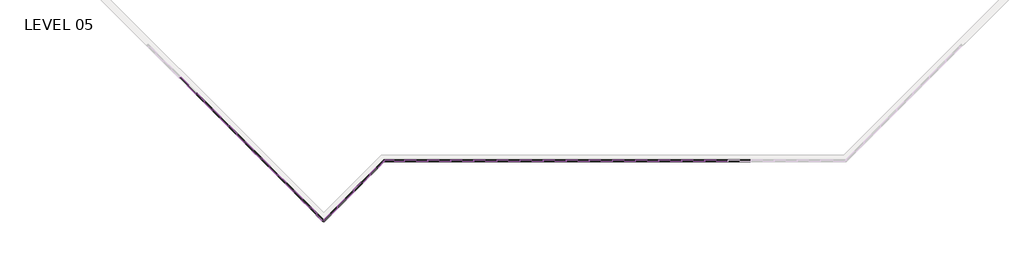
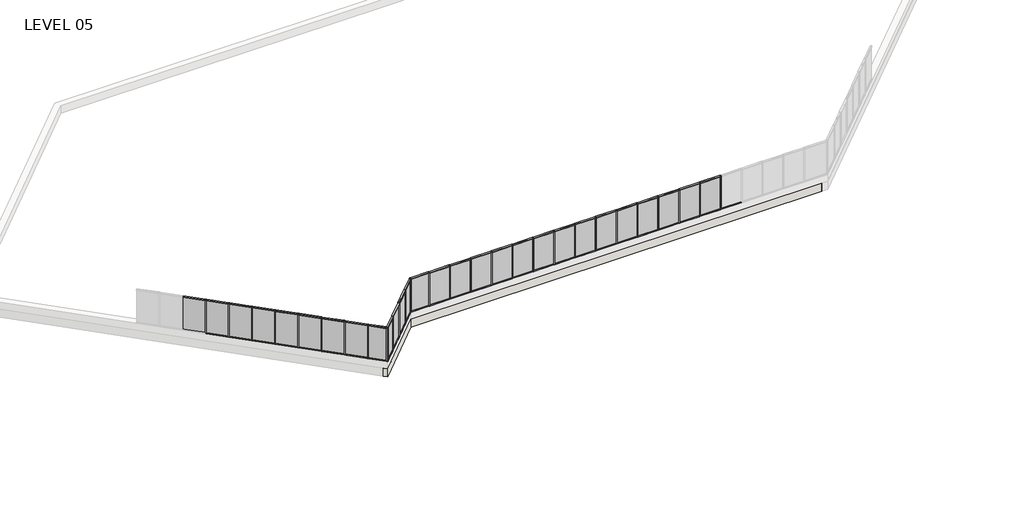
# One storey, part 1 of 17: 86 members, 28 plates, 2 walls.
"""IFC4 building model written with IfcOpenShell, lengths in millimetres."""

from ifc_helpers import new_model, si_unit, origin, place, context, project, spatial, faceted_brep, transform, mapped, element, save
from components import member_5247f267, member_e44af9ab, member_800970d4, member_c23f844a, member_45eb7f2e, member_ed9c17d6, member_53409b32, member_43bac76b, member_0b71a88d, plate_67294edd, plate_50b9cd61, plate_9c66726c, plate_dca6a18a, plate_903242d9, plate_0d1907f3, plate_15429445

model = new_model("IFC4")

# Units and contexts
model_context = context("Model", 3, world=origin())
ifc_project = project(units=[si_unit("LENGTHUNIT", "METRE", prefix="MILLI")], contexts=[model_context])

# Site, building, storey
site = spatial("IfcSite", under=ifc_project)
building = spatial("IfcBuilding", under=site)
storey = spatial("IfcBuildingStorey", under=building, Name="LEVEL 05", Elevation=15824.2)

# Members
placement = place(None, origin())
member_shape = member_5247f267(model_context)
element("IfcMember", 1, ObjectType="Rectangular Mullion : 2\" x 4.5\" rectangular", at=placement, inside=storey, context=model_context, shape_type="MappedRepresentation", body=[
    mapped(member_shape, transform((19945.35, -5092.0171279, 15824.2), x_axis=(0.0, 0.0, -1.0), y_axis=(0.0, -1.0, 0.0), z_axis=(-1.0, 0.0, 0.0))),
])
element("IfcMember", 2, ObjectType="Rectangular Mullion : 2\" x 4.5\" rectangular", at=placement, inside=storey, context=model_context, shape_type="MappedRepresentation", body=[
    mapped(member_shape, transform((21469.35, -5092.0171279, 15824.2), x_axis=(0.0, 0.0, -1.0), y_axis=(0.0, -1.0, 0.0), z_axis=(-1.0, 0.0, 0.0))),
])
element("IfcMember", 3, ObjectType="Rectangular Mullion : 2\" x 4.5\" rectangular", at=placement, inside=storey, context=model_context, shape_type="MappedRepresentation", body=[
    mapped(member_shape, transform((22993.35, -5092.0171279, 15824.2), x_axis=(0.0, 0.0, -1.0), y_axis=(0.0, -1.0, 0.0), z_axis=(-1.0, 0.0, 0.0))),
])
element("IfcMember", 4, ObjectType="Rectangular Mullion : 2\" x 4.5\" rectangular", at=placement, inside=storey, context=model_context, shape_type="MappedRepresentation", body=[
    mapped(member_shape, transform((29089.35, -5092.0171279, 15824.2), x_axis=(0.0, 0.0, -1.0), y_axis=(0.0, -1.0, 0.0), z_axis=(-1.0, 0.0, 0.0))),
])
element("IfcMember", 5, ObjectType="Rectangular Mullion : 2\" x 4.5\" rectangular", at=placement, inside=storey, context=model_context, shape_type="MappedRepresentation", body=[
    mapped(member_shape, transform((30613.35, -5092.0171279, 15824.2), x_axis=(0.0, 0.0, -1.0), y_axis=(0.0, -1.0, 0.0), z_axis=(-1.0, 0.0, 0.0))),
])
element("IfcMember", 6, ObjectType="Rectangular Mullion : 2\" x 4.5\" rectangular", at=placement, inside=storey, context=model_context, shape_type="MappedRepresentation", body=[
    mapped(member_shape, transform((32137.35, -5092.0171279, 15824.2), x_axis=(0.0, 0.0, -1.0), y_axis=(0.0, -1.0, 0.0), z_axis=(-1.0, 0.0, 0.0))),
])
element("IfcMember", 7, ObjectType="Rectangular Mullion : 2\" x 4.5\" rectangular", at=placement, inside=storey, context=model_context, shape_type="MappedRepresentation", body=[
    mapped(member_shape, transform((35185.35, -5092.0171279, 15824.2), x_axis=(0.0, 0.0, -1.0), y_axis=(0.0, -1.0, 0.0), z_axis=(-1.0, 0.0, 0.0))),
])
element("IfcMember", 8, ObjectType="Rectangular Mullion : 2\" x 4.5\" rectangular", at=placement, inside=storey, context=model_context, shape_type="MappedRepresentation", body=[
    mapped(member_shape, transform((36709.35, -5092.0171279, 15824.2), x_axis=(0.0, 0.0, -1.0), y_axis=(0.0, -1.0, 0.0), z_axis=(-1.0, 0.0, 0.0))),
])
element("IfcMember", 9, ObjectType="Rectangular Mullion : 2\" x 4.5\" rectangular", at=placement, inside=storey, context=model_context, shape_type="MappedRepresentation", body=[
    mapped(member_shape, transform((39757.35, -5092.0171279, 15824.2), x_axis=(0.0, 0.0, -1.0), y_axis=(0.0, -1.0, 0.0), z_axis=(-1.0, 0.0, 0.0))),
])
element("IfcMember", 10, ObjectType="Rectangular Mullion : 2\" x 4.5\" rectangular", at=placement, inside=storey, context=model_context, shape_type="MappedRepresentation", body=[
    mapped(member_shape, transform((24517.35, -5092.0171279, 15824.2), x_axis=(0.0, 0.0, -1.0), y_axis=(0.0, -1.0, 0.0), z_axis=(-1.0, 0.0, 0.0))),
])
element("IfcMember", 11, ObjectType="Rectangular Mullion : 2\" x 4.5\" rectangular", at=placement, inside=storey, context=model_context, shape_type="MappedRepresentation", body=[
    mapped(member_shape, transform((27565.35, -5092.0171279, 15824.2), x_axis=(0.0, 0.0, -1.0), y_axis=(0.0, -1.0, 0.0), z_axis=(-1.0, 0.0, 0.0))),
])
element("IfcMember", 12, ObjectType="Rectangular Mullion : 2\" x 4.5\" rectangular", at=placement, inside=storey, context=model_context, shape_type="MappedRepresentation", body=[
    mapped(member_shape, transform((26041.35, -5092.0171279, 15824.2), x_axis=(0.0, 0.0, -1.0), y_axis=(0.0, -1.0, 0.0), z_axis=(-1.0, 0.0, 0.0))),
])
element("IfcMember", 13, ObjectType="Rectangular Mullion : 2\" x 4.5\" rectangular", at=placement, inside=storey, context=model_context, shape_type="MappedRepresentation", body=[
    mapped(member_shape, transform((38233.35, -5092.0171279, 15824.2), x_axis=(0.0, 0.0, -1.0), y_axis=(0.0, -1.0, 0.0), z_axis=(-1.0, 0.0, 0.0))),
])
element("IfcMember", 14, ObjectType="Rectangular Mullion : 2\" x 4.5\" rectangular", at=placement, inside=storey, context=model_context, shape_type="MappedRepresentation", body=[
    mapped(member_shape, transform((33661.35, -5092.0171279, 15824.2), x_axis=(0.0, 0.0, -1.0), y_axis=(0.0, -1.0, 0.0), z_axis=(-1.0, 0.0, 0.0))),
])
element("IfcMember", 15, ObjectType="Rectangular Mullion : 2\" x 4.5\" rectangular", at=placement, inside=storey, context=model_context, shape_type="MappedRepresentation", body=[
    mapped(member_shape, transform((41281.35, -5092.0171279, 15824.2), x_axis=(0.0, 0.0, -1.0), y_axis=(0.0, -1.0, 0.0), z_axis=(-1.0, 0.0, 0.0))),
])
element("IfcMember", 16, ObjectType="Rectangular Mullion : 2\" x 4.5\" rectangular", at=placement, inside=storey, context=model_context, shape_type="MappedRepresentation", body=[
    mapped(member_shape, transform((9409.6310836, -3891.4043471, 15824.2), x_axis=(0.0, 0.0, -1.0), y_axis=(-0.707106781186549, -0.7071067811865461, 0.0), z_axis=(-0.7071067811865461, 0.707106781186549, 0.0))),
])
element("IfcMember", 17, ObjectType="Rectangular Mullion : 2\" x 4.5\" rectangular", at=placement, inside=storey, context=model_context, shape_type="MappedRepresentation", body=[
    mapped(member_shape, transform((10487.2618181, -4969.0350816, 15824.2), x_axis=(0.0, 0.0, -1.0), y_axis=(-0.707106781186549, -0.7071067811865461, 0.0), z_axis=(-0.7071067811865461, 0.707106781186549, 0.0))),
])
element("IfcMember", 18, ObjectType="Rectangular Mullion : 2\" x 4.5\" rectangular", at=placement, inside=storey, context=model_context, shape_type="MappedRepresentation", body=[
    mapped(member_shape, transform((11564.8925527, -6046.6658162, 15824.2), x_axis=(0.0, 0.0, -1.0), y_axis=(-0.707106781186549, -0.7071067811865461, 0.0), z_axis=(-0.7071067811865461, 0.707106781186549, 0.0))),
])
element("IfcMember", 19, ObjectType="Rectangular Mullion : 2\" x 4.5\" rectangular", at=placement, inside=storey, context=model_context, shape_type="MappedRepresentation", body=[
    mapped(member_shape, transform((12642.5232872, -7124.2965507, 15824.2), x_axis=(0.0, 0.0, -1.0), y_axis=(-0.7071067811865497, -0.7071067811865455, 0.0), z_axis=(-0.7071067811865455, 0.7071067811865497, 0.0))),
])
element("IfcMember", 20, ObjectType="Rectangular Mullion : 2\" x 4.5\" rectangular", at=placement, inside=storey, context=model_context, shape_type="MappedRepresentation", body=[
    mapped(member_shape, transform((16592.327111, -7061.3461525, 15824.2), x_axis=(0.0, 0.0, -1.0), y_axis=(0.7071067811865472, -0.7071067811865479, 0.0), z_axis=(-0.7071067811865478, -0.7071067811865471, 0.0))),
])
element("IfcMember", 21, ObjectType="Rectangular Mullion : 2\" x 4.5\" rectangular", at=placement, inside=storey, context=model_context, shape_type="MappedRepresentation", body=[
    mapped(member_shape, transform((15514.6963765, -8138.976887, 15824.2), x_axis=(0.0, 0.0, -1.0), y_axis=(0.7071067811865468, -0.7071067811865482, 0.0), z_axis=(-0.7071067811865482, -0.7071067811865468, 0.0))),
])
element("IfcMember", 22, ObjectType="Rectangular Mullion : 2\" x 4.5\" rectangular", at=placement, inside=storey, context=model_context, shape_type="MappedRepresentation", body=[
    mapped(member_shape, transform((21418.55, -5092.0171279, 18415.0), x_axis=(0.0, 0.0, 1.0), y_axis=(0.0, -1.0, 0.0), z_axis=(1.0, 0.0, 0.0))),
])
element("IfcMember", 23, ObjectType="Rectangular Mullion : 2\" x 4.5\" rectangular", at=placement, inside=storey, context=model_context, shape_type="MappedRepresentation", body=[
    mapped(member_shape, transform((22942.55, -5092.0171279, 18415.0), x_axis=(0.0, 0.0, 1.0), y_axis=(0.0, -1.0, 0.0), z_axis=(1.0, 0.0, 0.0))),
])
element("IfcMember", 24, ObjectType="Rectangular Mullion : 2\" x 4.5\" rectangular", at=placement, inside=storey, context=model_context, shape_type="MappedRepresentation", body=[
    mapped(member_shape, transform((29038.55, -5092.0171279, 18415.0), x_axis=(0.0, 0.0, 1.0), y_axis=(0.0, -1.0, 0.0), z_axis=(1.0, 0.0, 0.0))),
])
element("IfcMember", 25, ObjectType="Rectangular Mullion : 2\" x 4.5\" rectangular", at=placement, inside=storey, context=model_context, shape_type="MappedRepresentation", body=[
    mapped(member_shape, transform((30562.55, -5092.0171279, 18415.0), x_axis=(0.0, 0.0, 1.0), y_axis=(0.0, -1.0, 0.0), z_axis=(1.0, 0.0, 0.0))),
])
element("IfcMember", 26, ObjectType="Rectangular Mullion : 2\" x 4.5\" rectangular", at=placement, inside=storey, context=model_context, shape_type="MappedRepresentation", body=[
    mapped(member_shape, transform((32086.55, -5092.0171279, 18415.0), x_axis=(0.0, 0.0, 1.0), y_axis=(0.0, -1.0, 0.0), z_axis=(1.0, 0.0, 0.0))),
])
element("IfcMember", 27, ObjectType="Rectangular Mullion : 2\" x 4.5\" rectangular", at=placement, inside=storey, context=model_context, shape_type="MappedRepresentation", body=[
    mapped(member_shape, transform((35134.55, -5092.0171279, 18415.0), x_axis=(0.0, 0.0, 1.0), y_axis=(0.0, -1.0, 0.0), z_axis=(1.0, 0.0, 0.0))),
])
element("IfcMember", 28, ObjectType="Rectangular Mullion : 2\" x 4.5\" rectangular", at=placement, inside=storey, context=model_context, shape_type="MappedRepresentation", body=[
    mapped(member_shape, transform((36658.55, -5092.0171279, 18415.0), x_axis=(0.0, 0.0, 1.0), y_axis=(0.0, -1.0, 0.0), z_axis=(1.0, 0.0, 0.0))),
])
element("IfcMember", 29, ObjectType="Rectangular Mullion : 2\" x 4.5\" rectangular", at=placement, inside=storey, context=model_context, shape_type="MappedRepresentation", body=[
    mapped(member_shape, transform((39706.55, -5092.0171279, 18415.0), x_axis=(0.0, 0.0, 1.0), y_axis=(0.0, -1.0, 0.0), z_axis=(1.0, 0.0, 0.0))),
])
element("IfcMember", 30, ObjectType="Rectangular Mullion : 2\" x 4.5\" rectangular", at=placement, inside=storey, context=model_context, shape_type="MappedRepresentation", body=[
    mapped(member_shape, transform((24466.55, -5092.0171279, 18415.0), x_axis=(0.0, 0.0, 1.0), y_axis=(0.0, -1.0, 0.0), z_axis=(1.0, 0.0, 0.0))),
])
element("IfcMember", 31, ObjectType="Rectangular Mullion : 2\" x 4.5\" rectangular", at=placement, inside=storey, context=model_context, shape_type="MappedRepresentation", body=[
    mapped(member_shape, transform((27514.55, -5092.0171279, 18415.0), x_axis=(0.0, 0.0, 1.0), y_axis=(0.0, -1.0, 0.0), z_axis=(1.0, 0.0, 0.0))),
])
element("IfcMember", 32, ObjectType="Rectangular Mullion : 2\" x 4.5\" rectangular", at=placement, inside=storey, context=model_context, shape_type="MappedRepresentation", body=[
    mapped(member_shape, transform((25990.55, -5092.0171279, 18415.0), x_axis=(0.0, 0.0, 1.0), y_axis=(0.0, -1.0, 0.0), z_axis=(1.0, 0.0, 0.0))),
])
element("IfcMember", 33, ObjectType="Rectangular Mullion : 2\" x 4.5\" rectangular", at=placement, inside=storey, context=model_context, shape_type="MappedRepresentation", body=[
    mapped(member_shape, transform((38182.55, -5092.0171279, 18415.0), x_axis=(0.0, 0.0, 1.0), y_axis=(0.0, -1.0, 0.0), z_axis=(1.0, 0.0, 0.0))),
])
element("IfcMember", 34, ObjectType="Rectangular Mullion : 2\" x 4.5\" rectangular", at=placement, inside=storey, context=model_context, shape_type="MappedRepresentation", body=[
    mapped(member_shape, transform((33610.55, -5092.0171279, 18415.0), x_axis=(0.0, 0.0, 1.0), y_axis=(0.0, -1.0, 0.0), z_axis=(1.0, 0.0, 0.0))),
])
element("IfcMember", 35, ObjectType="Rectangular Mullion : 2\" x 4.5\" rectangular", at=placement, inside=storey, context=model_context, shape_type="MappedRepresentation", body=[
    mapped(member_shape, transform((41230.55, -5092.0171279, 18415.0), x_axis=(0.0, 0.0, 1.0), y_axis=(0.0, -1.0, 0.0), z_axis=(1.0, 0.0, 0.0))),
])
element("IfcMember", 36, ObjectType="Rectangular Mullion : 2\" x 4.5\" rectangular", at=placement, inside=storey, context=model_context, shape_type="MappedRepresentation", body=[
    mapped(member_shape, transform((10451.3407936, -4933.1140572, 18415.0), x_axis=(0.0, 0.0, 1.0), y_axis=(-0.707106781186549, -0.7071067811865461, 0.0), z_axis=(0.7071067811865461, -0.707106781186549, 0.0))),
])
element("IfcMember", 37, ObjectType="Rectangular Mullion : 2\" x 4.5\" rectangular", at=placement, inside=storey, context=model_context, shape_type="MappedRepresentation", body=[
    mapped(member_shape, transform((11528.9715282, -6010.7447917, 18415.0), x_axis=(0.0, 0.0, 1.0), y_axis=(-0.707106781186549, -0.7071067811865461, 0.0), z_axis=(0.7071067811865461, -0.707106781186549, 0.0))),
])
element("IfcMember", 38, ObjectType="Rectangular Mullion : 2\" x 4.5\" rectangular", at=placement, inside=storey, context=model_context, shape_type="MappedRepresentation", body=[
    mapped(member_shape, transform((12606.6022627, -7088.3755262, 18415.0), x_axis=(0.0, 0.0, 1.0), y_axis=(-0.707106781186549, -0.7071067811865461, 0.0), z_axis=(0.7071067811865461, -0.707106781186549, 0.0))),
])
element("IfcMember", 39, ObjectType="Rectangular Mullion : 2\" x 4.5\" rectangular", at=placement, inside=storey, context=model_context, shape_type="MappedRepresentation", body=[
    mapped(member_shape, transform((13684.2329972, -8166.0062607, 18415.0), x_axis=(0.0, 0.0, 1.0), y_axis=(-0.7071067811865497, -0.7071067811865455, 0.0), z_axis=(0.7071067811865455, -0.7071067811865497, 0.0))),
])
element("IfcMember", 40, ObjectType="Rectangular Mullion : 2\" x 4.5\" rectangular", at=placement, inside=storey, context=model_context, shape_type="MappedRepresentation", body=[
    mapped(member_shape, transform((16556.4060865, -7097.267177, 18415.0), x_axis=(0.0, 0.0, 1.0), y_axis=(0.7071067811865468, -0.7071067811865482, 0.0), z_axis=(0.7071067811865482, 0.7071067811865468, 0.0))),
])
element("IfcMember", 41, ObjectType="Rectangular Mullion : 2\" x 4.5\" rectangular", at=placement, inside=storey, context=model_context, shape_type="MappedRepresentation", body=[
    mapped(member_shape, transform((17634.036821, -6019.6364425, 18415.0), x_axis=(0.0, 0.0, 1.0), y_axis=(0.7071067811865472, -0.7071067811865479, 0.0), z_axis=(0.7071067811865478, 0.7071067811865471, 0.0))),
])
member_2_shape = member_e44af9ab(model_context)
element("IfcMember", 42, ObjectType="Rectangular Mullion : 2\" x 4.5\" rectangular", at=placement, inside=storey, context=model_context, shape_type="MappedRepresentation", body=[
    mapped(member_2_shape, transform((19919.95, -5092.0171279, 15824.2), x_axis=(1.0, 0.0, 0.0), y_axis=(0.0, -1.0, 0.0), z_axis=(0.0, 0.0, -1.0))),
])
element("IfcMember", 43, ObjectType="Rectangular Mullion : 2\" x 4.5\" rectangular", at=placement, inside=storey, context=model_context, shape_type="MappedRepresentation", body=[
    mapped(member_2_shape, transform((21443.95, -5092.0171279, 15824.2), x_axis=(1.0, 0.0, 0.0), y_axis=(0.0, -1.0, 0.0), z_axis=(0.0, 0.0, -1.0))),
])
element("IfcMember", 44, ObjectType="Rectangular Mullion : 2\" x 4.5\" rectangular", at=placement, inside=storey, context=model_context, shape_type="MappedRepresentation", body=[
    mapped(member_2_shape, transform((22967.95, -5092.0171279, 15824.2), x_axis=(1.0, 0.0, 0.0), y_axis=(0.0, -1.0, 0.0), z_axis=(0.0, 0.0, -1.0))),
])
element("IfcMember", 45, ObjectType="Rectangular Mullion : 2\" x 4.5\" rectangular", at=placement, inside=storey, context=model_context, shape_type="MappedRepresentation", body=[
    mapped(member_2_shape, transform((29063.95, -5092.0171279, 15824.2), x_axis=(1.0, 0.0, 0.0), y_axis=(0.0, -1.0, 0.0), z_axis=(0.0, 0.0, -1.0))),
])
element("IfcMember", 46, ObjectType="Rectangular Mullion : 2\" x 4.5\" rectangular", at=placement, inside=storey, context=model_context, shape_type="MappedRepresentation", body=[
    mapped(member_2_shape, transform((30587.95, -5092.0171279, 15824.2), x_axis=(1.0, 0.0, 0.0), y_axis=(0.0, -1.0, 0.0), z_axis=(0.0, 0.0, -1.0))),
])
element("IfcMember", 47, ObjectType="Rectangular Mullion : 2\" x 4.5\" rectangular", at=placement, inside=storey, context=model_context, shape_type="MappedRepresentation", body=[
    mapped(member_2_shape, transform((32111.95, -5092.0171279, 15824.2), x_axis=(1.0, 0.0, 0.0), y_axis=(0.0, -1.0, 0.0), z_axis=(0.0, 0.0, -1.0))),
])
element("IfcMember", 48, ObjectType="Rectangular Mullion : 2\" x 4.5\" rectangular", at=placement, inside=storey, context=model_context, shape_type="MappedRepresentation", body=[
    mapped(member_2_shape, transform((35159.95, -5092.0171279, 15824.2), x_axis=(1.0, 0.0, 0.0), y_axis=(0.0, -1.0, 0.0), z_axis=(0.0, 0.0, -1.0))),
])
element("IfcMember", 49, ObjectType="Rectangular Mullion : 2\" x 4.5\" rectangular", at=placement, inside=storey, context=model_context, shape_type="MappedRepresentation", body=[
    mapped(member_2_shape, transform((36683.95, -5092.0171279, 15824.2), x_axis=(1.0, 0.0, 0.0), y_axis=(0.0, -1.0, 0.0), z_axis=(0.0, 0.0, -1.0))),
])
element("IfcMember", 50, ObjectType="Rectangular Mullion : 2\" x 4.5\" rectangular", at=placement, inside=storey, context=model_context, shape_type="MappedRepresentation", body=[
    mapped(member_2_shape, transform((39731.95, -5092.0171279, 15824.2), x_axis=(1.0, 0.0, 0.0), y_axis=(0.0, -1.0, 0.0), z_axis=(0.0, 0.0, -1.0))),
])
element("IfcMember", 51, ObjectType="Rectangular Mullion : 2\" x 4.5\" rectangular", at=placement, inside=storey, context=model_context, shape_type="MappedRepresentation", body=[
    mapped(member_2_shape, transform((24491.95, -5092.0171279, 15824.2), x_axis=(1.0, 0.0, 0.0), y_axis=(0.0, -1.0, 0.0), z_axis=(0.0, 0.0, -1.0))),
])
element("IfcMember", 52, ObjectType="Rectangular Mullion : 2\" x 4.5\" rectangular", at=placement, inside=storey, context=model_context, shape_type="MappedRepresentation", body=[
    mapped(member_2_shape, transform((27539.95, -5092.0171279, 15824.2), x_axis=(1.0, 0.0, 0.0), y_axis=(0.0, -1.0, 0.0), z_axis=(0.0, 0.0, -1.0))),
])
element("IfcMember", 53, ObjectType="Rectangular Mullion : 2\" x 4.5\" rectangular", at=placement, inside=storey, context=model_context, shape_type="MappedRepresentation", body=[
    mapped(member_2_shape, transform((26015.95, -5092.0171279, 15824.2), x_axis=(1.0, 0.0, 0.0), y_axis=(0.0, -1.0, 0.0), z_axis=(0.0, 0.0, -1.0))),
])
element("IfcMember", 54, ObjectType="Rectangular Mullion : 2\" x 4.5\" rectangular", at=placement, inside=storey, context=model_context, shape_type="MappedRepresentation", body=[
    mapped(member_2_shape, transform((38207.95, -5092.0171279, 15824.2), x_axis=(1.0, 0.0, 0.0), y_axis=(0.0, -1.0, 0.0), z_axis=(0.0, 0.0, -1.0))),
])
element("IfcMember", 55, ObjectType="Rectangular Mullion : 2\" x 4.5\" rectangular", at=placement, inside=storey, context=model_context, shape_type="MappedRepresentation", body=[
    mapped(member_2_shape, transform((33635.95, -5092.0171279, 15824.2), x_axis=(1.0, 0.0, 0.0), y_axis=(0.0, -1.0, 0.0), z_axis=(0.0, 0.0, -1.0))),
])
element("IfcMember", 56, ObjectType="Rectangular Mullion : 2\" x 4.5\" rectangular", at=placement, inside=storey, context=model_context, shape_type="MappedRepresentation", body=[
    mapped(member_2_shape, transform((41255.95, -5092.0171279, 15824.2), x_axis=(1.0, 0.0, 0.0), y_axis=(0.0, -1.0, 0.0), z_axis=(0.0, 0.0, -1.0))),
])
element("IfcMember", 57, ObjectType="Rectangular Mullion : 2\" x 4.5\" rectangular", at=placement, inside=storey, context=model_context, shape_type="MappedRepresentation", body=[
    mapped(member_2_shape, transform((6176.740342, -658.5136055, 15824.2), x_axis=(0.7071067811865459, -0.7071067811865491, 0.0), y_axis=(-0.7071067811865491, -0.7071067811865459, 0.0), z_axis=(0.0, 0.0, -1.0))),
])
element("IfcMember", 58, ObjectType="Rectangular Mullion : 2\" x 4.5\" rectangular", at=placement, inside=storey, context=model_context, shape_type="MappedRepresentation", body=[
    mapped(member_2_shape, transform((7248.3837518, -1730.1570153, 15824.2), x_axis=(0.7071067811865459, -0.7071067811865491, 0.0), y_axis=(-0.7071067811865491, -0.7071067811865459, 0.0), z_axis=(0.0, 0.0, -1.0))),
])
element("IfcMember", 59, ObjectType="Rectangular Mullion : 2\" x 4.5\" rectangular", at=placement, inside=storey, context=model_context, shape_type="MappedRepresentation", body=[
    mapped(member_2_shape, transform((8320.0271616, -2801.8004251, 15824.2), x_axis=(0.7071067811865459, -0.7071067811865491, 0.0), y_axis=(-0.7071067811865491, -0.7071067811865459, 0.0), z_axis=(0.0, 0.0, -1.0))),
])
element("IfcMember", 60, ObjectType="Rectangular Mullion : 2\" x 4.5\" rectangular", at=placement, inside=storey, context=model_context, shape_type="MappedRepresentation", body=[
    mapped(member_2_shape, transform((9391.6705714, -3873.4438349, 15824.2), x_axis=(0.7071067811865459, -0.7071067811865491, 0.0), y_axis=(-0.7071067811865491, -0.7071067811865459, 0.0), z_axis=(0.0, 0.0, -1.0))),
])
element("IfcMember", 61, ObjectType="Rectangular Mullion : 2\" x 4.5\" rectangular", at=placement, inside=storey, context=model_context, shape_type="MappedRepresentation", body=[
    mapped(member_2_shape, transform((10469.3013059, -4951.0745694, 15824.2), x_axis=(0.7071067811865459, -0.7071067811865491, 0.0), y_axis=(-0.7071067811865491, -0.7071067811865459, 0.0), z_axis=(0.0, 0.0, -1.0))),
])
element("IfcMember", 62, ObjectType="Rectangular Mullion : 2\" x 4.5\" rectangular", at=placement, inside=storey, context=model_context, shape_type="MappedRepresentation", body=[
    mapped(member_2_shape, transform((11546.9320404, -6028.7053039, 15824.2), x_axis=(0.7071067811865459, -0.7071067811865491, 0.0), y_axis=(-0.7071067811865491, -0.7071067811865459, 0.0), z_axis=(0.0, 0.0, -1.0))),
])
element("IfcMember", 63, ObjectType="Rectangular Mullion : 2\" x 4.5\" rectangular", at=placement, inside=storey, context=model_context, shape_type="MappedRepresentation", body=[
    mapped(member_2_shape, transform((12624.5627749, -7106.3360385, 15824.2), x_axis=(0.7071067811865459, -0.7071067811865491, 0.0), y_axis=(-0.7071067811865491, -0.7071067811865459, 0.0), z_axis=(0.0, 0.0, -1.0))),
])
element("IfcMember", 64, ObjectType="Rectangular Mullion : 2\" x 4.5\" rectangular", at=placement, inside=storey, context=model_context, shape_type="MappedRepresentation", body=[
    mapped(member_2_shape, transform((13702.1935095, -8183.966773, 15824.2), x_axis=(0.7071067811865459, -0.7071067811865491, 0.0), y_axis=(-0.7071067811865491, -0.7071067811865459, 0.0), z_axis=(0.0, 0.0, -1.0))),
])
element("IfcMember", 65, ObjectType="Rectangular Mullion : 2\" x 4.5\" rectangular", at=placement, inside=storey, context=model_context, shape_type="MappedRepresentation", body=[
    mapped(member_2_shape, transform((16574.3665988, -7079.3066648, 15824.2), x_axis=(0.707106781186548, 0.707106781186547, 0.0), y_axis=(0.707106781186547, -0.707106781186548, 0.0), z_axis=(0.0, 0.0, -1.0))),
])
element("IfcMember", 66, ObjectType="Rectangular Mullion : 2\" x 4.5\" rectangular", at=placement, inside=storey, context=model_context, shape_type="MappedRepresentation", body=[
    mapped(member_2_shape, transform((17651.9973333, -6001.6759302, 15824.2), x_axis=(0.707106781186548, 0.707106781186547, 0.0), y_axis=(0.707106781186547, -0.707106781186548, 0.0), z_axis=(0.0, 0.0, -1.0))),
])
element("IfcMember", 67, ObjectType="Rectangular Mullion : 2\" x 4.5\" rectangular", at=placement, inside=storey, context=model_context, shape_type="MappedRepresentation", body=[
    mapped(member_2_shape, transform((15496.7358642, -8156.9373993, 15824.2), x_axis=(0.707106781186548, 0.707106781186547, 0.0), y_axis=(0.707106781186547, -0.707106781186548, 0.0), z_axis=(0.0, 0.0, -1.0))),
])
member_3_shape = member_800970d4(model_context)
element("IfcMember", 68, ObjectType="Rectangular Mullion : 2\" x 4.5\" rectangular", at=placement, inside=storey, context=model_context, shape_type="MappedRepresentation", body=[
    mapped(member_3_shape, transform((14585.95, -9067.7232635, 15824.2), x_axis=(0.7071067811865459, -0.7071067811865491, 0.0), y_axis=(-0.7071067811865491, -0.7071067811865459, 0.0), z_axis=(0.0, 0.0, -1.0))),
])
element("IfcMember", 69, ObjectType="Rectangular Mullion : 2\" x 4.5\" rectangular", at=placement, inside=storey, context=model_context, shape_type="MappedRepresentation", body=[
    mapped(member_3_shape, transform((18561.6561356, -5092.0171279, 15824.2), x_axis=(0.707106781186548, 0.707106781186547, 0.0), y_axis=(0.707106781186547, -0.707106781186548, 0.0), z_axis=(0.0, 0.0, -1.0))),
])
element("IfcMember", 70, ObjectType="Rectangular Mullion : 2\" x 4.5\" rectangular", at=placement, inside=storey, context=model_context, shape_type="MappedRepresentation", body=[
    mapped(member_3_shape, transform((18561.6561356, -5092.0171279, 18415.0), x_axis=(-1.0, 0.0, 0.0), y_axis=(0.0, -1.0, 0.0), z_axis=(0.0, 0.0, 1.0))),
])
element("IfcMember", 71, ObjectType="Rectangular Mullion : 2\" x 4.5\" rectangular", at=placement, inside=storey, context=model_context, shape_type="MappedRepresentation", body=[
    mapped(member_3_shape, transform((14585.95, -9067.7232635, 18415.0), x_axis=(-0.707106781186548, -0.707106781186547, 0.0), y_axis=(0.707106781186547, -0.707106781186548, 0.0), z_axis=(0.0, 0.0, 1.0))),
])
member_4_shape = member_c23f844a(model_context)
element("IfcMember", 72, ObjectType="Rectangular Mullion : 2\" x 4.5\" rectangular", at=placement, inside=storey, context=model_context, shape_type="MappedRepresentation", body=[
    mapped(member_4_shape, transform((7230.4232395, -1712.196503, 18415.0), x_axis=(0.0, 0.0, 1.0), y_axis=(-0.707106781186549, -0.7071067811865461, 0.0), z_axis=(0.7071067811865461, -0.707106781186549, 0.0))),
])
element("IfcMember", 73, ObjectType="Rectangular Mullion : 2\" x 4.5\" rectangular", at=placement, inside=storey, context=model_context, shape_type="MappedRepresentation", body=[
    mapped(member_4_shape, transform((8302.0666493, -2783.8399128, 18415.0), x_axis=(0.0, 0.0, 1.0), y_axis=(-0.7071067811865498, -0.7071067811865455, 0.0), z_axis=(0.7071067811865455, -0.7071067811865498, 0.0))),
])
element("IfcMember", 74, ObjectType="Rectangular Mullion : 2\" x 4.5\" rectangular", at=placement, inside=storey, context=model_context, shape_type="MappedRepresentation", body=[
    mapped(member_4_shape, transform((9373.7100591, -3855.4833226, 18415.0), x_axis=(0.0, 0.0, 1.0), y_axis=(-0.707106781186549, -0.7071067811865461, 0.0), z_axis=(0.707106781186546, -0.7071067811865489, 0.0))),
])
element("IfcMember", 75, ObjectType="Rectangular Mullion : 2\" x 4.5\" rectangular", at=placement, inside=storey, context=model_context, shape_type="MappedRepresentation", body=[
    mapped(member_4_shape, transform((6194.7008542, -676.4741177, 15824.2), x_axis=(0.0, 0.0, -1.0), y_axis=(-0.7071067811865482, -0.7071067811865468, 0.0), z_axis=(-0.7071067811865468, 0.7071067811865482, 0.0))),
])
element("IfcMember", 76, ObjectType="Rectangular Mullion : 2\" x 4.5\" rectangular", at=placement, inside=storey, context=model_context, shape_type="MappedRepresentation", body=[
    mapped(member_4_shape, transform((7266.344264, -1748.1175275, 15824.2), x_axis=(0.0, 0.0, -1.0), y_axis=(-0.7071067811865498, -0.7071067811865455, 0.0), z_axis=(-0.7071067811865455, 0.7071067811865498, 0.0))),
])
element("IfcMember", 77, ObjectType="Rectangular Mullion : 2\" x 4.5\" rectangular", at=placement, inside=storey, context=model_context, shape_type="MappedRepresentation", body=[
    mapped(member_4_shape, transform((8337.9876738, -2819.7609373, 15824.2), x_axis=(0.0, 0.0, -1.0), y_axis=(-0.707106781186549, -0.7071067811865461, 0.0), z_axis=(-0.707106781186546, 0.7071067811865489, 0.0))),
])
member_5_shape = member_45eb7f2e(model_context)
element("IfcMember", 78, ObjectType="Rectangular Mullion : 2\" x 4.5\" rectangular", at=placement, inside=storey, context=model_context, shape_type="MappedRepresentation", body=[
    mapped(member_5_shape, transform((19894.55, -5092.0171279, 18415.0), x_axis=(0.0, 0.0, 1.0), y_axis=(0.0, -1.0, 0.0), z_axis=(1.0, 0.0, 0.0))),
])
element("IfcMember", 79, ObjectType="Rectangular Mullion : 2\" x 4.5\" rectangular", at=placement, inside=storey, context=model_context, shape_type="MappedRepresentation", body=[
    mapped(member_5_shape, transform((18612.4561356, -5092.0171279, 15824.2), x_axis=(0.0, 0.0, -1.0), y_axis=(0.0, -1.0, 0.0), z_axis=(-1.0, 0.0, 0.0))),
])
member_6_shape = member_ed9c17d6(model_context)
element("IfcMember", 80, ObjectType="Rectangular Mullion : 2\" x 4.5\" rectangular", at=placement, inside=storey, context=model_context, shape_type="MappedRepresentation", body=[
    mapped(member_6_shape, transform((6158.7798297, -640.5530932, 18415.0), x_axis=(0.0, 0.0, 1.0), y_axis=(-0.707106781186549, -0.7071067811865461, 0.0), z_axis=(0.7071067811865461, -0.707106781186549, 0.0))),
])
member_7_shape = member_53409b32(model_context)
element("IfcMember", 81, ObjectType="Rectangular Mullion : 2\" x 4.5\" rectangular", at=placement, inside=storey, context=model_context, shape_type="MappedRepresentation", body=[
    mapped(member_7_shape, transform((14550.0289755, -9031.802239, 18415.0), x_axis=(0.0, 0.0, 1.0), y_axis=(-0.7071067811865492, -0.7071067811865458, 0.0), z_axis=(0.7071067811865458, -0.7071067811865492, 0.0))),
])
element("IfcMember", 82, ObjectType="Rectangular Mullion : 2\" x 4.5\" rectangular", at=placement, inside=storey, context=model_context, shape_type="MappedRepresentation", body=[
    mapped(member_7_shape, transform((13720.1540217, -8201.9272852, 15824.2), x_axis=(0.0, 0.0, -1.0), y_axis=(-0.7071067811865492, -0.7071067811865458, 0.0), z_axis=(-0.7071067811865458, 0.7071067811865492, 0.0))),
])
member_8_shape = member_43bac76b(model_context)
element("IfcMember", 83, ObjectType="Rectangular Mullion : 2\" x 4.5\" rectangular", at=placement, inside=storey, context=model_context, shape_type="MappedRepresentation", body=[
    mapped(member_8_shape, transform((18525.7351111, -5127.9381524, 18415.0), x_axis=(0.0, 0.0, 1.0), y_axis=(0.7071067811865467, -0.7071067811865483, 0.0), z_axis=(0.7071067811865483, 0.7071067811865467, 0.0))),
])
element("IfcMember", 84, ObjectType="Rectangular Mullion : 2\" x 4.5\" rectangular", at=placement, inside=storey, context=model_context, shape_type="MappedRepresentation", body=[
    mapped(member_8_shape, transform((17669.9578455, -5983.715418, 15824.2), x_axis=(0.0, 0.0, -1.0), y_axis=(0.7071067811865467, -0.7071067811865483, 0.0), z_axis=(-0.7071067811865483, -0.7071067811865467, 0.0))),
])
member_9_shape = member_0b71a88d(model_context)
element("IfcMember", 85, ObjectType="Rectangular Mullion : 2\" x 4.5\" rectangular", at=placement, inside=storey, context=model_context, shape_type="MappedRepresentation", body=[
    mapped(member_9_shape, transform((14621.8710245, -9031.802239, 15824.2), x_axis=(0.0, 0.0, -1.0), y_axis=(0.7071067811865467, -0.7071067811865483, 0.0), z_axis=(-0.7071067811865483, -0.7071067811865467, 0.0))),
])
element("IfcMember", 86, ObjectType="Rectangular Mullion : 2\" x 4.5\" rectangular", at=placement, inside=storey, context=model_context, shape_type="MappedRepresentation", body=[
    mapped(member_9_shape, transform((15478.775352, -8174.8979115, 18415.0), x_axis=(0.0, 0.0, 1.0), y_axis=(0.7071067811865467, -0.7071067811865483, 0.0), z_axis=(0.7071067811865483, 0.7071067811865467, 0.0))),
])

# Plates
plate_shape = plate_67294edd(model_context)
element("IfcPlate", 87, ObjectType="System Panel : 1/4\" Glass", at=placement, inside=storey, context=model_context, shape_type="MappedRepresentation", body=[
    mapped(plate_shape, transform((20681.95, -5092.0171279, 15875.0), x_axis=(1.0, 0.0, 0.0), y_axis=(0.0, 1.0, 0.0), z_axis=(0.0, 0.0, 1.0))),
])
element("IfcPlate", 88, ObjectType="System Panel : 1/4\" Glass", at=placement, inside=storey, context=model_context, shape_type="MappedRepresentation", body=[
    mapped(plate_shape, transform((22205.95, -5092.0171279, 15875.0), x_axis=(1.0, 0.0, 0.0), y_axis=(0.0, 1.0, 0.0), z_axis=(0.0, 0.0, 1.0))),
])
element("IfcPlate", 89, ObjectType="System Panel : 1/4\" Glass", at=placement, inside=storey, context=model_context, shape_type="MappedRepresentation", body=[
    mapped(plate_shape, transform((23729.95, -5092.0171279, 15875.0), x_axis=(1.0, 0.0, 0.0), y_axis=(0.0, 1.0, 0.0), z_axis=(0.0, 0.0, 1.0))),
])
element("IfcPlate", 90, ObjectType="System Panel : 1/4\" Glass", at=placement, inside=storey, context=model_context, shape_type="MappedRepresentation", body=[
    mapped(plate_shape, transform((29825.95, -5092.0171279, 15875.0), x_axis=(1.0, 0.0, 0.0), y_axis=(0.0, 1.0, 0.0), z_axis=(0.0, 0.0, 1.0))),
])
element("IfcPlate", 91, ObjectType="System Panel : 1/4\" Glass", at=placement, inside=storey, context=model_context, shape_type="MappedRepresentation", body=[
    mapped(plate_shape, transform((31349.95, -5092.0171279, 15875.0), x_axis=(1.0, 0.0, 0.0), y_axis=(0.0, 1.0, 0.0), z_axis=(0.0, 0.0, 1.0))),
])
element("IfcPlate", 92, ObjectType="System Panel : 1/4\" Glass", at=placement, inside=storey, context=model_context, shape_type="MappedRepresentation", body=[
    mapped(plate_shape, transform((32873.95, -5092.0171279, 15875.0), x_axis=(1.0, 0.0, 0.0), y_axis=(0.0, 1.0, 0.0), z_axis=(0.0, 0.0, 1.0))),
])
element("IfcPlate", 93, ObjectType="System Panel : 1/4\" Glass", at=placement, inside=storey, context=model_context, shape_type="MappedRepresentation", body=[
    mapped(plate_shape, transform((35921.95, -5092.0171279, 15875.0), x_axis=(1.0, 0.0, 0.0), y_axis=(0.0, 1.0, 0.0), z_axis=(0.0, 0.0, 1.0))),
])
element("IfcPlate", 94, ObjectType="System Panel : 1/4\" Glass", at=placement, inside=storey, context=model_context, shape_type="MappedRepresentation", body=[
    mapped(plate_shape, transform((37445.95, -5092.0171279, 15875.0), x_axis=(1.0, 0.0, 0.0), y_axis=(0.0, 1.0, 0.0), z_axis=(0.0, 0.0, 1.0))),
])
element("IfcPlate", 95, ObjectType="System Panel : 1/4\" Glass", at=placement, inside=storey, context=model_context, shape_type="MappedRepresentation", body=[
    mapped(plate_shape, transform((40493.95, -5092.0171279, 15875.0), x_axis=(1.0, 0.0, 0.0), y_axis=(0.0, 1.0, 0.0), z_axis=(0.0, 0.0, 1.0))),
])
element("IfcPlate", 96, ObjectType="System Panel : 1/4\" Glass", at=placement, inside=storey, context=model_context, shape_type="MappedRepresentation", body=[
    mapped(plate_shape, transform((25253.95, -5092.0171279, 15875.0), x_axis=(1.0, 0.0, 0.0), y_axis=(0.0, 1.0, 0.0), z_axis=(0.0, 0.0, 1.0))),
])
element("IfcPlate", 97, ObjectType="System Panel : 1/4\" Glass", at=placement, inside=storey, context=model_context, shape_type="MappedRepresentation", body=[
    mapped(plate_shape, transform((28301.95, -5092.0171279, 15875.0), x_axis=(1.0, 0.0, 0.0), y_axis=(0.0, 1.0, 0.0), z_axis=(0.0, 0.0, 1.0))),
])
element("IfcPlate", 98, ObjectType="System Panel : 1/4\" Glass", at=placement, inside=storey, context=model_context, shape_type="MappedRepresentation", body=[
    mapped(plate_shape, transform((26777.95, -5092.0171279, 15875.0), x_axis=(1.0, 0.0, 0.0), y_axis=(0.0, 1.0, 0.0), z_axis=(0.0, 0.0, 1.0))),
])
element("IfcPlate", 99, ObjectType="System Panel : 1/4\" Glass", at=placement, inside=storey, context=model_context, shape_type="MappedRepresentation", body=[
    mapped(plate_shape, transform((38969.95, -5092.0171279, 15875.0), x_axis=(1.0, 0.0, 0.0), y_axis=(0.0, 1.0, 0.0), z_axis=(0.0, 0.0, 1.0))),
])
element("IfcPlate", 100, ObjectType="System Panel : 1/4\" Glass", at=placement, inside=storey, context=model_context, shape_type="MappedRepresentation", body=[
    mapped(plate_shape, transform((34397.95, -5092.0171279, 15875.0), x_axis=(1.0, 0.0, 0.0), y_axis=(0.0, 1.0, 0.0), z_axis=(0.0, 0.0, 1.0))),
])
element("IfcPlate", 101, ObjectType="System Panel : 1/4\" Glass", at=placement, inside=storey, context=model_context, shape_type="MappedRepresentation", body=[
    mapped(plate_shape, transform((9930.4859386, -4412.2592021, 15875.0), x_axis=(0.7071067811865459, -0.7071067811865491, 0.0), y_axis=(0.7071067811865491, 0.7071067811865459, 0.0), z_axis=(0.0, 0.0, 1.0))),
])
element("IfcPlate", 102, ObjectType="System Panel : 1/4\" Glass", at=placement, inside=storey, context=model_context, shape_type="MappedRepresentation", body=[
    mapped(plate_shape, transform((11008.1166732, -5489.8899367, 15875.0), x_axis=(0.7071067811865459, -0.7071067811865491, 0.0), y_axis=(0.7071067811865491, 0.7071067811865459, 0.0), z_axis=(0.0, 0.0, 1.0))),
])
element("IfcPlate", 103, ObjectType="System Panel : 1/4\" Glass", at=placement, inside=storey, context=model_context, shape_type="MappedRepresentation", body=[
    mapped(plate_shape, transform((12085.7474077, -6567.5206712, 15875.0), x_axis=(0.7071067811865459, -0.7071067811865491, 0.0), y_axis=(0.7071067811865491, 0.7071067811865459, 0.0), z_axis=(0.0, 0.0, 1.0))),
])
element("IfcPlate", 104, ObjectType="System Panel : 1/4\" Glass", at=placement, inside=storey, context=model_context, shape_type="MappedRepresentation", body=[
    mapped(plate_shape, transform((13163.3781422, -7645.1514057, 15875.0), x_axis=(0.7071067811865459, -0.7071067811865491, 0.0), y_axis=(0.7071067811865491, 0.7071067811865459, 0.0), z_axis=(0.0, 0.0, 1.0))),
])
element("IfcPlate", 105, ObjectType="System Panel : 1/4\" Glass", at=placement, inside=storey, context=model_context, shape_type="MappedRepresentation", body=[
    mapped(plate_shape, transform((17113.181966, -6540.4912975, 15875.0), x_axis=(0.707106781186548, 0.707106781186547, 0.0), y_axis=(-0.707106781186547, 0.707106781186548, 0.0), z_axis=(0.0, 0.0, 1.0))),
])
element("IfcPlate", 106, ObjectType="System Panel : 1/4\" Glass", at=placement, inside=storey, context=model_context, shape_type="MappedRepresentation", body=[
    mapped(plate_shape, transform((16035.5512315, -7618.122032, 15875.0), x_axis=(0.707106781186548, 0.707106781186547, 0.0), y_axis=(-0.707106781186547, 0.707106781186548, 0.0), z_axis=(0.0, 0.0, 1.0))),
])
plate_2_shape = plate_50b9cd61(model_context)
element("IfcPlate", 107, ObjectType="System Panel : 1/4\" Glass", at=placement, inside=storey, context=model_context, shape_type="MappedRepresentation", body=[
    mapped(plate_2_shape, transform((6712.5620469, -1194.3353104, 15875.0), x_axis=(0.7071067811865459, -0.7071067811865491, 0.0), y_axis=(0.7071067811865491, 0.7071067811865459, 0.0), z_axis=(0.0, 0.0, 1.0))),
])
element("IfcPlate", 108, ObjectType="System Panel : 1/4\" Glass", at=placement, inside=storey, context=model_context, shape_type="MappedRepresentation", body=[
    mapped(plate_2_shape, transform((7784.2054567, -2265.9787202, 15875.0), x_axis=(0.7071067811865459, -0.7071067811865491, 0.0), y_axis=(0.7071067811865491, 0.7071067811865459, 0.0), z_axis=(0.0, 0.0, 1.0))),
])
element("IfcPlate", 109, ObjectType="System Panel : 1/4\" Glass", at=placement, inside=storey, context=model_context, shape_type="MappedRepresentation", body=[
    mapped(plate_2_shape, transform((8855.8488665, -3337.62213, 15875.0), x_axis=(0.7071067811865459, -0.7071067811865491, 0.0), y_axis=(0.7071067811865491, 0.7071067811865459, 0.0), z_axis=(0.0, 0.0, 1.0))),
])
plate_3_shape = plate_9c66726c(model_context)
element("IfcPlate", 110, ObjectType="System Panel : 1/4\" Glass", at=placement, inside=storey, context=model_context, shape_type="MappedRepresentation", body=[
    mapped(plate_3_shape, transform((19253.5030678, -5092.0171279, 15875.0), x_axis=(1.0, 0.0, 0.0), y_axis=(0.0, 1.0, 0.0), z_axis=(0.0, 0.0, 1.0))),
])
plate_4_shape = plate_dca6a18a(model_context)
element("IfcPlate", 111, ObjectType="System Panel : 1/4\" Glass", at=placement, inside=storey, context=model_context, shape_type="MappedRepresentation", body=[
    mapped(plate_4_shape, transform((5639.4307395, -121.204003, 15875.0), x_axis=(0.7071067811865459, -0.7071067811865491, 0.0), y_axis=(0.7071067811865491, 0.7071067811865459, 0.0), z_axis=(0.0, 0.0, 1.0))),
])
plate_5_shape = plate_903242d9(model_context)
element("IfcPlate", 112, ObjectType="System Panel : 1/4\" Glass", at=placement, inside=storey, context=model_context, shape_type="MappedRepresentation", body=[
    mapped(plate_5_shape, transform((14135.0914986, -8616.8647621, 15875.0), x_axis=(0.7071067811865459, -0.7071067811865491, 0.0), y_axis=(0.7071067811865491, 0.7071067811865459, 0.0), z_axis=(0.0, 0.0, 1.0))),
])
plate_6_shape = plate_0d1907f3(model_context)
element("IfcPlate", 113, ObjectType="System Panel : 1/4\" Glass", at=placement, inside=storey, context=model_context, shape_type="MappedRepresentation", body=[
    mapped(plate_6_shape, transform((18097.8464783, -5555.8267852, 15875.0), x_axis=(0.707106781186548, 0.707106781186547, 0.0), y_axis=(-0.707106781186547, 0.707106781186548, 0.0), z_axis=(0.0, 0.0, 1.0))),
])
plate_7_shape = plate_15429445(model_context)
element("IfcPlate", 114, ObjectType="System Panel : 1/4\" Glass", at=placement, inside=storey, context=model_context, shape_type="MappedRepresentation", body=[
    mapped(plate_7_shape, transform((15050.3231882, -8603.3500753, 15875.0), x_axis=(0.707106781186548, 0.707106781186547, 0.0), y_axis=(-0.707106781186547, 0.707106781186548, 0.0), z_axis=(0.0, 0.0, 1.0))),
])

# Walls
element("IfcWall", 115, ObjectType="01-CONCRETE-12", at=placement, inside=storey, context=model_context, shape_type="Brep", body=[
    faceted_brep([(48939.0761469, -4844.3671279, 14643.1), (18459.0761469, -4844.3671279, 14643.1), (18459.0761469, -4844.3671279, 15265.4), (48939.0761469, -4844.3671279, 15265.4), (48634.2761469, -5149.1671279, 14643.1), (48634.2761469, -5149.1671279, 15265.4), (18585.3284407, -5149.1671279, 15265.4), (18154.2761469, -5149.1671279, 15265.4), (18154.2761469, -5149.1671279, 14643.1), (18585.3284407, -5149.1671279, 14643.1)], [[[0, 1, 2, 3]], [[4, 5, 6, 7, 8, 9]], [[1, 0, 4, 9, 8]], [[3, 2, 7, 6, 5]], [[0, 3, 5, 4]], [[2, 1, 8, 7]]]),
])
element("IfcWall", 116, ObjectType="01-CONCRETE-12", at=placement, inside=storey, context=model_context, shape_type="Brep", body=[
    faceted_brep([(18154.2761469, -5149.1671279, 14643.1), (14585.95, -8717.4932748, 14643.1), (14370.4238531, -8933.0194217, 14643.1), (14370.4238531, -8933.0194217, 15265.4), (14585.95, -8717.4932748, 15265.4), (18154.2761469, -5149.1671279, 15265.4), (18585.3284407, -5149.1671279, 14643.1), (18585.3284407, -5149.1671279, 15265.4), (14585.95, -9148.5455686, 15265.4), (14585.95, -9148.5455686, 14643.1)], [[[0, 1, 2, 3, 4, 5]], [[6, 7, 8, 9]], [[2, 1, 0, 6, 9]], [[5, 4, 3, 8, 7]], [[0, 5, 7, 6]], [[3, 2, 9, 8]]]),
])

save(model, "model.ifc")
